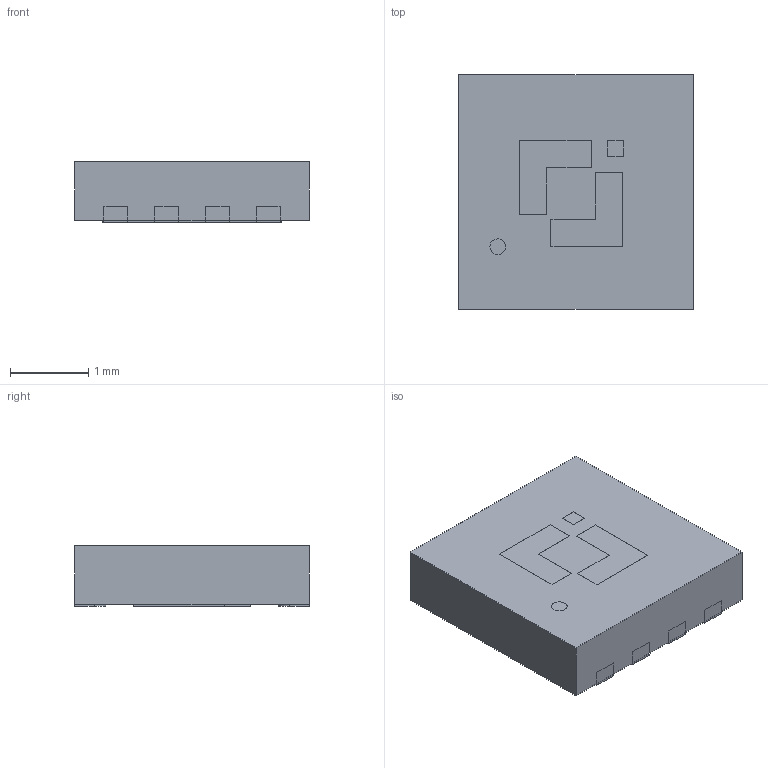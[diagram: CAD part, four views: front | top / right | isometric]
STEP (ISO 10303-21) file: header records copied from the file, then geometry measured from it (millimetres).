
FILE_DESCRIPTION(('HOOPS Exchange Step'),'2;1');
FILE_NAME('C:\Users\18121\AppData\Local\Packages\Shapr3D.Shapr3D_dvv5p1vgwv6mp\TempState\export\temp_export','2026-01-27T13:15:08+08:00',('18121'),('Shapr3D Limited'),'HOOPS Exchange 2025.9','Shapr3D','Authorized');
FILE_SCHEMA( ('AP242_MANAGED_MODEL_BASED_3D_ENGINEERING_MIM_LF {1 0 10303 442 1 1 4}') );
Length unit declared in the file: millimetre
Products named in the file (2): 直线图案 01; root
Assembly tree (1 placements, depth 2):
  root
    直线图案 01
Bounding box: 3 x 3 x 0.78 mm (x, y, z)
Surface area: 39.1 mm2
Topology: 10 solids, 10 shells, 90 faces, 200 edges, 134 vertices
Faces by surface type: plane 73, cylinder 17
Full cylindrical faces by diameter (mm): 0.2 x1
Entity records: 2554 total; most frequent: CARTESIAN_POINT 428, DIRECTION 424, ORIENTED_EDGE 400, EDGE_CURVE 200, VECTOR 164, LINE 164, VERTEX_POINT 134, AXIS2_PLACEMENT_3D 130
